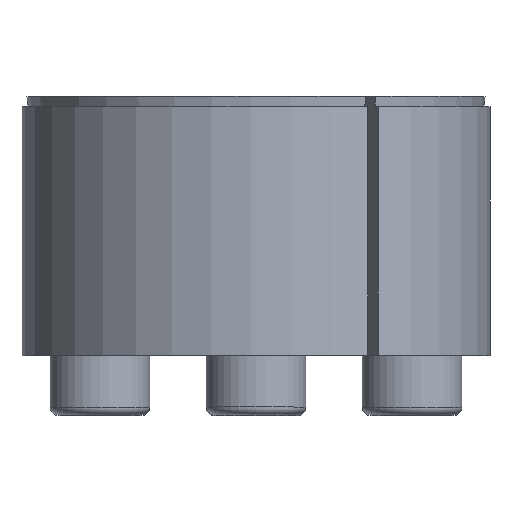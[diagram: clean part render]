
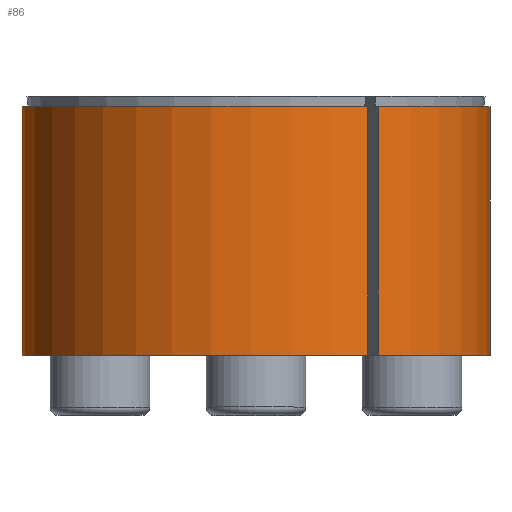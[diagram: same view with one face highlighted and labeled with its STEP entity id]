
A CAD part, top view. The second image highlights one B-rep face of the part: STEP entity #86.
In plain terms, the highlighted cylindrical face has radius 23.5 mm (diameter 47 mm), a partial arc.
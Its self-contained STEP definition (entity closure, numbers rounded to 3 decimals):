
#86 = ADVANCED_FACE( '', ( #179 ), #180, .T. );
#179 = FACE_OUTER_BOUND( '', #271, .T. );
#180 = CYLINDRICAL_SURFACE( '', #272, 23.5 );
#271 = EDGE_LOOP( '', ( #440, #441, #442, #443 ) );
#272 = AXIS2_PLACEMENT_3D( '', #444, #445, #446 );
#440 = ORIENTED_EDGE( '', *, *, #547, .T. );
#441 = ORIENTED_EDGE( '', *, *, #535, .T. );
#442 = ORIENTED_EDGE( '', *, *, #558, .T. );
#443 = ORIENTED_EDGE( '', *, *, #570, .T. );
#444 = CARTESIAN_POINT( '', ( 0., -60., 0. ) );
#445 = DIRECTION( '', ( 0., -1., 0. ) );
#446 = DIRECTION( '', ( 0., 0., 1. ) );
#535 = EDGE_CURVE( '', #661, #658, #662, .F. );
#547 = EDGE_CURVE( '', #679, #661, #680, .T. );
#558 = EDGE_CURVE( '', #658, #695, #696, .T. );
#570 = EDGE_CURVE( '', #695, #679, #711, .T. );
#658 = VERTEX_POINT( '', #885 );
#661 = VERTEX_POINT( '', #889 );
#662 = LINE( '', #890, #891 );
#679 = VERTEX_POINT( '', #920 );
#680 = CIRCLE( '', #921, 23.5 );
#695 = VERTEX_POINT( '', #937 );
#696 = CIRCLE( '', #938, 23.5 );
#711 = LINE( '', #959, #960 );
#885 = CARTESIAN_POINT( '', ( 12.255, -13., 20.051 ) );
#889 = CARTESIAN_POINT( '', ( 12.255, 12., 20.051 ) );
#890 = CARTESIAN_POINT( '', ( 12.255, -60., 20.051 ) );
#891 = VECTOR( '', #1027, 1000. );
#920 = CARTESIAN_POINT( '', ( 11.238, 12., 20.639 ) );
#921 = AXIS2_PLACEMENT_3D( '', #1037, #1038, #1039 );
#937 = CARTESIAN_POINT( '', ( 11.238, -13., 20.639 ) );
#938 = AXIS2_PLACEMENT_3D( '', #1053, #1054, #1055 );
#959 = CARTESIAN_POINT( '', ( 11.238, -60., 20.639 ) );
#960 = VECTOR( '', #1068, 1000. );
#1027 = DIRECTION( '', ( 0., 1., 0. ) );
#1037 = CARTESIAN_POINT( '', ( 0., 12., 0. ) );
#1038 = DIRECTION( '', ( 0., -1., 0. ) );
#1039 = DIRECTION( '', ( 0., 0., -1. ) );
#1053 = CARTESIAN_POINT( '', ( 0., -13., 0. ) );
#1054 = DIRECTION( '', ( 0., 1., 0. ) );
#1055 = DIRECTION( '', ( 0., 0., 1. ) );
#1068 = DIRECTION( '', ( 0., 1., 0. ) );
